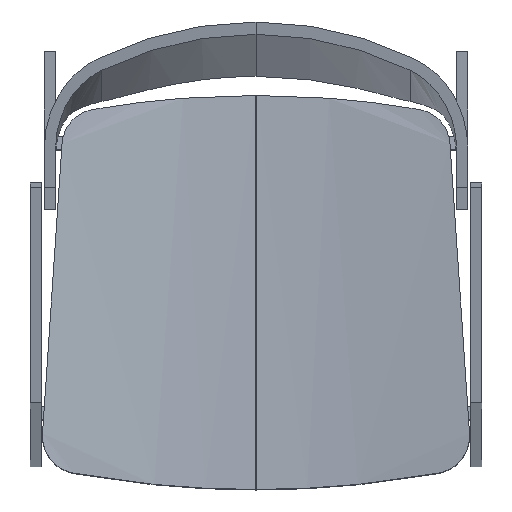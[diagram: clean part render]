
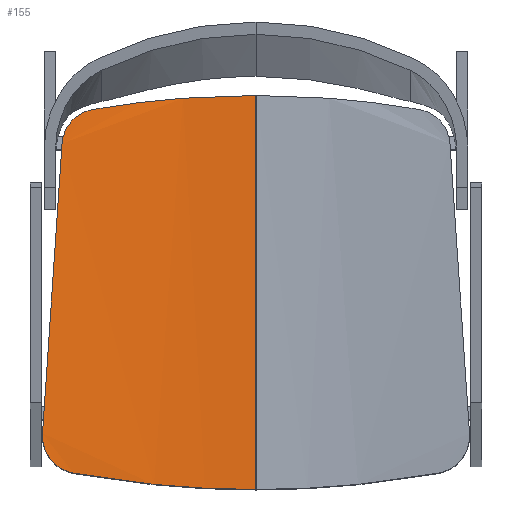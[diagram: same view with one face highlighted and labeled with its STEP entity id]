
A CAD part, top view. The second image highlights one B-rep face of the part: STEP entity #155.
In plain terms, the highlighted free-form (B-spline) face has degree [2, 1] with [3, 2] control points.
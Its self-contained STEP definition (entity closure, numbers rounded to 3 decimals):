
#155=ADVANCED_FACE('',(#251),#1497,.T.);
#251=FACE_OUTER_BOUND('',#347,.T.);
#347=EDGE_LOOP('',(#458,#459,#460,#461,#462,#463));
#458=ORIENTED_EDGE('',*,*,#864,.T.);
#459=ORIENTED_EDGE('',*,*,#878,.T.);
#460=ORIENTED_EDGE('',*,*,#876,.T.);
#461=ORIENTED_EDGE('',*,*,#873,.T.);
#462=ORIENTED_EDGE('',*,*,#869,.T.);
#463=ORIENTED_EDGE('',*,*,#867,.T.);
#864=EDGE_CURVE('',#1284,#1283,#1076,.T.);
#867=EDGE_CURVE('',#1286,#1284,#1079,.T.);
#869=EDGE_CURVE('',#1287,#1286,#1081,.T.);
#873=EDGE_CURVE('',#1290,#1287,#1085,.T.);
#876=EDGE_CURVE('',#1292,#1290,#1088,.T.);
#878=EDGE_CURVE('',#1283,#1292,#1090,.T.);
#1076=B_SPLINE_CURVE_WITH_KNOTS('',3,(#1773,#1774,#1775,#1776,#1777,#1778,
#1779,#1780,#1781,#1782,#1783,#1784,#1785,#1786,#1787,#1788,#1789,#1790,
#1791,#1792,#1793,#1794,#1795,#1796,#1797,#1798,#1799,#1800,#1801,#1802,
#1803,#1804,#1805,#1806),.UNSPECIFIED.,.F.,.F.,(4,3,3,3,3,3,3,3,3,3,3,4),
(0.,5.166,10.345,15.537,20.741,
25.957,31.184,36.424,41.674,46.935,
52.207,53.249),.UNSPECIFIED.);
#1079=B_SPLINE_CURVE_WITH_KNOTS('',3,(#1816,#1817,#1818,#1819,#1820,#1821,
#1822),.UNSPECIFIED.,.F.,.F.,(4,3,4),(0.,89.11,174.55),
 .UNSPECIFIED.);
#1081=B_SPLINE_CURVE_WITH_KNOTS('',1,(#1825,#1826),.UNSPECIFIED.,.F.,.F.,
(2,2),(0.,1.),.UNSPECIFIED.);
#1085=B_SPLINE_CURVE_WITH_KNOTS('',3,(#1841,#1842,#1843,#1844,#1845,#1846,
#1847,#1848,#1849,#1850),.UNSPECIFIED.,.F.,.F.,(4,3,3,4),(0.,89.509,
178.835,196.088),.UNSPECIFIED.);
#1088=B_SPLINE_CURVE_WITH_KNOTS('',3,(#1890,#1891,#1892,#1893,#1894,#1895,
#1896,#1897,#1898,#1899,#1900,#1901,#1902,#1903,#1904,#1905,#1906,#1907,
#1908,#1909,#1910,#1911,#1912,#1913,#1914,#1915,#1916,#1917,#1918,#1919,
#1920,#1921,#1922,#1923,#1924,#1925,#1926),.UNSPECIFIED.,.F.,.F.,(4,3,3,
3,3,3,3,3,3,3,3,3,4),(0.,5.161,10.333,15.515,
20.707,25.909,31.122,36.347,41.583,
46.831,52.093,57.367,58.997),
 .UNSPECIFIED.);
#1090=B_SPLINE_CURVE_WITH_KNOTS('',3,(#1929,#1930,#1931,#1932),
 .UNSPECIFIED.,.F.,.F.,(4,4),(0.,309.239),.UNSPECIFIED.);
#1283=VERTEX_POINT('',#1727);
#1284=VERTEX_POINT('',#1728);
#1286=VERTEX_POINT('',#1730);
#1287=VERTEX_POINT('',#1731);
#1290=VERTEX_POINT('',#1734);
#1292=VERTEX_POINT('',#1736);
#1497=(
BOUNDED_SURFACE()
B_SPLINE_SURFACE(2,1,((#1712,#1713),(#1714,#1715),(#1716,#1717)),
 .UNSPECIFIED.,.F.,.F.,.F.)
B_SPLINE_SURFACE_WITH_KNOTS((3,3),(2,2),(0.061,1.),(0.055,
0.474),.UNSPECIFIED.)
GEOMETRIC_REPRESENTATION_ITEM()
RATIONAL_B_SPLINE_SURFACE(((0.999,0.999),(0.995,
0.995),(1.,1.)))
REPRESENTATION_ITEM('')
SURFACE()
);
#1712=CARTESIAN_POINT('',(-217.181,-243.699,448.727));
#1713=CARTESIAN_POINT('',(-217.181,175.153,426.776));
#1714=CARTESIAN_POINT('',(-104.706,-244.843,426.895));
#1715=CARTESIAN_POINT('',(-104.706,174.009,404.944));
#1716=CARTESIAN_POINT('',(9.874,-244.843,426.895));
#1717=CARTESIAN_POINT('',(9.874,174.009,404.944));
#1727=CARTESIAN_POINT('',(-196.3,122.758,425.651));
#1728=CARTESIAN_POINT('',(-163.526,159.103,418.443));
#1730=CARTESIAN_POINT('',(9.874,174.009,404.944));
#1731=CARTESIAN_POINT('',(9.874,-244.843,426.895));
#1734=CARTESIAN_POINT('',(-183.93,-227.498,441.895));
#1736=CARTESIAN_POINT('',(-217.063,-185.137,445.635));
#1773=CARTESIAN_POINT('',(-163.526,159.103,418.443));
#1774=CARTESIAN_POINT('',(-165.203,158.812,418.706));
#1775=CARTESIAN_POINT('',(-166.964,158.387,418.992));
#1776=CARTESIAN_POINT('',(-168.588,157.881,419.265));
#1777=CARTESIAN_POINT('',(-170.215,157.374,419.539));
#1778=CARTESIAN_POINT('',(-171.885,156.731,419.83));
#1779=CARTESIAN_POINT('',(-173.432,156.016,420.109));
#1780=CARTESIAN_POINT('',(-174.982,155.3,420.388));
#1781=CARTESIAN_POINT('',(-176.537,154.454,420.679));
#1782=CARTESIAN_POINT('',(-177.98,153.542,420.958));
#1783=CARTESIAN_POINT('',(-179.428,152.627,421.237));
#1784=CARTESIAN_POINT('',(-180.844,151.597,421.521));
#1785=CARTESIAN_POINT('',(-182.16,150.501,421.794));
#1786=CARTESIAN_POINT('',(-183.48,149.403,422.067));
#1787=CARTESIAN_POINT('',(-184.737,148.208,422.338));
#1788=CARTESIAN_POINT('',(-185.904,146.945,422.599));
#1789=CARTESIAN_POINT('',(-187.072,145.68,422.861));
#1790=CARTESIAN_POINT('',(-188.153,144.344,423.113));
#1791=CARTESIAN_POINT('',(-189.149,142.934,423.356));
#1792=CARTESIAN_POINT('',(-190.146,141.522,423.599));
#1793=CARTESIAN_POINT('',(-191.036,140.069,423.828));
#1794=CARTESIAN_POINT('',(-191.842,138.536,424.047));
#1795=CARTESIAN_POINT('',(-192.65,136.999,424.267));
#1796=CARTESIAN_POINT('',(-193.337,135.456,424.467));
#1797=CARTESIAN_POINT('',(-193.939,133.824,424.657));
#1798=CARTESIAN_POINT('',(-194.542,132.188,424.848));
#1799=CARTESIAN_POINT('',(-195.018,130.584,425.015));
#1800=CARTESIAN_POINT('',(-195.405,128.88,425.173));
#1801=CARTESIAN_POINT('',(-195.792,127.173,425.33));
#1802=CARTESIAN_POINT('',(-196.054,125.536,425.462));
#1803=CARTESIAN_POINT('',(-196.217,123.79,425.582));
#1804=CARTESIAN_POINT('',(-196.25,123.445,425.606));
#1805=CARTESIAN_POINT('',(-196.277,123.104,425.629));
#1806=CARTESIAN_POINT('',(-196.3,122.758,425.651));
#1816=CARTESIAN_POINT('',(9.874,174.009,404.944));
#1817=CARTESIAN_POINT('',(-19.829,174.009,404.944));
#1818=CARTESIAN_POINT('',(-49.728,172.693,406.14));
#1819=CARTESIAN_POINT('',(-79.224,170.097,408.493));
#1820=CARTESIAN_POINT('',(-107.505,167.609,410.75));
#1821=CARTESIAN_POINT('',(-135.793,163.911,414.101));
#1822=CARTESIAN_POINT('',(-163.526,159.103,418.443));
#1825=CARTESIAN_POINT('',(9.874,-244.843,426.895));
#1826=CARTESIAN_POINT('',(9.874,174.009,404.944));
#1841=CARTESIAN_POINT('',(-183.93,-227.498,441.895));
#1842=CARTESIAN_POINT('',(-154.907,-232.731,437.372));
#1843=CARTESIAN_POINT('',(-125.788,-236.783,433.867));
#1844=CARTESIAN_POINT('',(-96.197,-239.674,431.367));
#1845=CARTESIAN_POINT('',(-66.667,-242.558,428.872));
#1846=CARTESIAN_POINT('',(-37.141,-244.236,427.42));
#1847=CARTESIAN_POINT('',(-7.372,-244.707,427.013));
#1848=CARTESIAN_POINT('',(-1.622,-244.797,426.934));
#1849=CARTESIAN_POINT('',(4.123,-244.843,426.895));
#1850=CARTESIAN_POINT('',(9.874,-244.843,426.895));
#1890=CARTESIAN_POINT('',(-217.063,-185.137,445.635));
#1891=CARTESIAN_POINT('',(-217.179,-186.85,445.747));
#1892=CARTESIAN_POINT('',(-217.181,-188.695,445.844));
#1893=CARTESIAN_POINT('',(-217.07,-190.41,445.912));
#1894=CARTESIAN_POINT('',(-216.958,-192.129,445.981));
#1895=CARTESIAN_POINT('',(-216.719,-193.94,446.029));
#1896=CARTESIAN_POINT('',(-216.383,-195.631,446.053));
#1897=CARTESIAN_POINT('',(-216.046,-197.325,446.076));
#1898=CARTESIAN_POINT('',(-215.577,-199.071,446.077));
#1899=CARTESIAN_POINT('',(-215.022,-200.706,446.056));
#1900=CARTESIAN_POINT('',(-214.466,-202.345,446.034));
#1901=CARTESIAN_POINT('',(-213.781,-203.998,445.989));
#1902=CARTESIAN_POINT('',(-213.018,-205.549,445.925));
#1903=CARTESIAN_POINT('',(-212.253,-207.104,445.86));
#1904=CARTESIAN_POINT('',(-211.371,-208.637,445.773));
#1905=CARTESIAN_POINT('',(-210.412,-210.078,445.668));
#1906=CARTESIAN_POINT('',(-209.452,-211.523,445.562));
#1907=CARTESIAN_POINT('',(-208.393,-212.913,445.437));
#1908=CARTESIAN_POINT('',(-207.257,-214.22,445.294));
#1909=CARTESIAN_POINT('',(-206.119,-215.531,445.151));
#1910=CARTESIAN_POINT('',(-204.905,-216.759,444.992));
#1911=CARTESIAN_POINT('',(-203.611,-217.911,444.816));
#1912=CARTESIAN_POINT('',(-202.314,-219.065,444.64));
#1913=CARTESIAN_POINT('',(-200.971,-220.115,444.451));
#1914=CARTESIAN_POINT('',(-199.54,-221.094,444.247));
#1915=CARTESIAN_POINT('',(-198.106,-222.074,444.041));
#1916=CARTESIAN_POINT('',(-196.659,-222.934,443.83));
#1917=CARTESIAN_POINT('',(-195.114,-223.723,443.601));
#1918=CARTESIAN_POINT('',(-193.566,-224.514,443.371));
#1919=CARTESIAN_POINT('',(-192.041,-225.175,443.142));
#1920=CARTESIAN_POINT('',(-190.408,-225.762,442.893));
#1921=CARTESIAN_POINT('',(-188.77,-226.351,442.644));
#1922=CARTESIAN_POINT('',(-187.195,-226.807,442.402));
#1923=CARTESIAN_POINT('',(-185.497,-227.184,442.139));
#1924=CARTESIAN_POINT('',(-184.973,-227.3,442.057));
#1925=CARTESIAN_POINT('',(-184.458,-227.403,441.977));
#1926=CARTESIAN_POINT('',(-183.93,-227.498,441.895));
#1929=CARTESIAN_POINT('',(-196.3,122.758,425.651));
#1930=CARTESIAN_POINT('',(-203.221,20.123,432.249));
#1931=CARTESIAN_POINT('',(-210.143,-82.51,438.91));
#1932=CARTESIAN_POINT('',(-217.063,-185.137,445.635));
